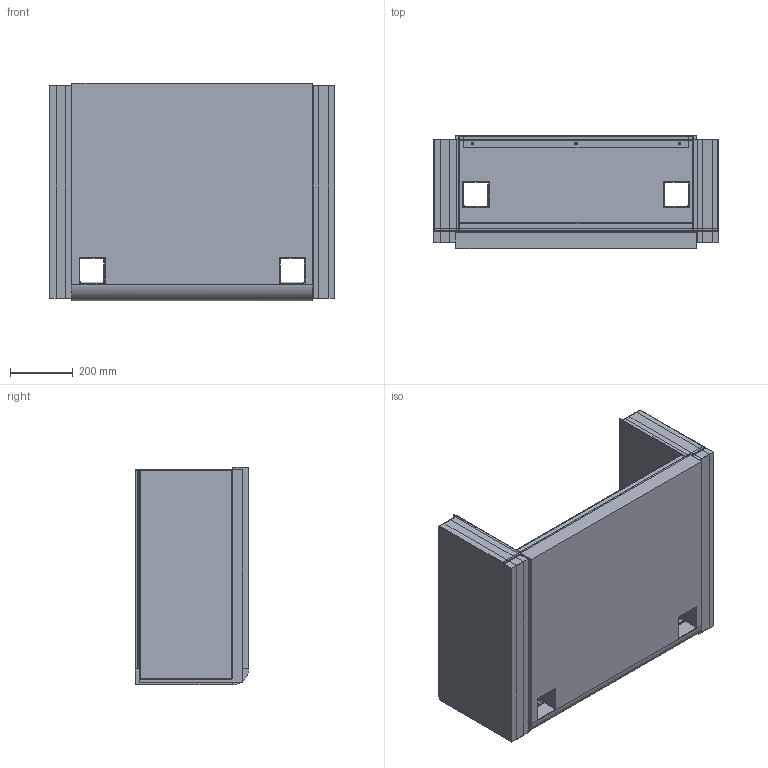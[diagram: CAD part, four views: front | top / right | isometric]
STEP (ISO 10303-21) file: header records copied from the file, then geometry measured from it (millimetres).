
FILE_DESCRIPTION(('CATIA V5 STEP Exchange','CAx-IF Rec.Pracs.--- Composite Materials ---3.4---2017-06-13'),'2;1');
FILE_NAME('C:\Users\MMAK\Documents\SmarTeam\WEBSITE CAD\LIJ\LIJ30.stp','2026-07-15T19:09:42+00:00',('none'),('none'),'CATIA Unofficial Packaging Version SP2','CATIA V5 STEP AP203 v2','none');
FILE_SCHEMA(('CONFIG_CONTROL_DESIGN'));
Length unit declared in the file: inch
Products named in the file (1): 81127 2
Assembly tree (83 placements, depth 2):
  81127 2
    #63  x66
    #552  x2
    #3257  x2
    #5712
    #6983  x2
    #9458  x4
    #9640
    #14250
    #15197
    #23210
    #26522
    #29542
Bounding box: 908.02 x 360.98 x 693.41 mm (x, y, z)
Volume: 84997425.6 mm3; surface area: 9615070.7 mm2
Topology: 83 solids, 83 shells, 2384 faces, 5346 edges, 3260 vertices
Faces by surface type: plane 1128, cylinder 976, torus 132, revolution 132, bspline 16
Entity records: 33734 total; most frequent: CARTESIAN_POINT 9372, ORIENTED_EDGE 5314, DIRECTION 3927, EDGE_CURVE 2657, VECTOR 1691, LINE 1691, VERTEX_POINT 1620, AXIS2_PLACEMENT_3D 1466
